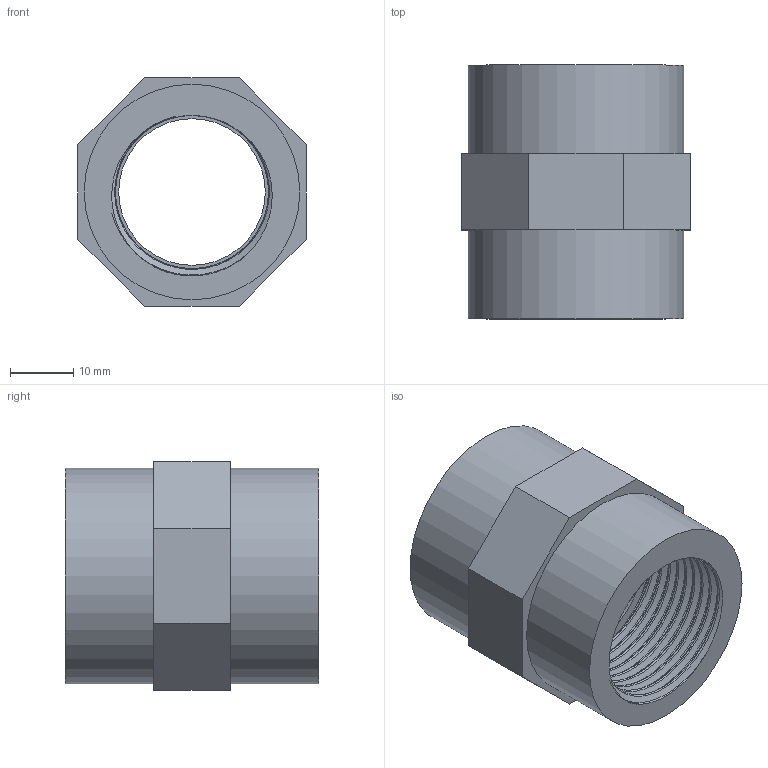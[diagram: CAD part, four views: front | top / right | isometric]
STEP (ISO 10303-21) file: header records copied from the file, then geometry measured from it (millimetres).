
FILE_DESCRIPTION(/* description */ ('PVC manicotto filettato BSP femmina'),/* implementation_level */ '2;1');
FILE_NAME(/* name */ 'C:\Users\POLYPIPE\Desktop\DATASET INVENTOR\LIBRERIA EFFAST\RACCORDI 3DxWEB\RER\3D_RERMAE\3D_RERMAE025C.stp',/* time_stamp */ '2018-01-19T16:37:05+01:00',/* author */ ('POLYPIPE'),/* organization */ ('Polypipe Italia'),/* preprocessor_version */ 'ST-DEVELOPER v16.1',/* originating_system */ 'Autodesk Inventor 2016',/* authorisation */ '');
FILE_SCHEMA (('CONFIG_CONTROL_DESIGN'));
Length unit declared in the file: millimetre
Products named in the file (1): 3D_RERMAE
Bounding box: 36 x 40 x 36 mm (x, y, z)
Volume: 18813.7 mm3; surface area: 10699.5 mm2
Topology: 1 solids, 1 shells, 27 faces, 63 edges, 42 vertices
Faces by surface type: plane 14, bspline 10, cylinder 3
Full cylindrical faces by diameter (mm): 23.117 x1, 34 x2
Entity records: 8002 total; most frequent: CARTESIAN_POINT 7446, ORIENTED_EDGE 120, DIRECTION 72, EDGE_CURVE 60, VERTEX_POINT 42, EDGE_LOOP 36, B_SPLINE_CURVE_WITH_KNOTS 30, FACE_OUTER_BOUND 27
